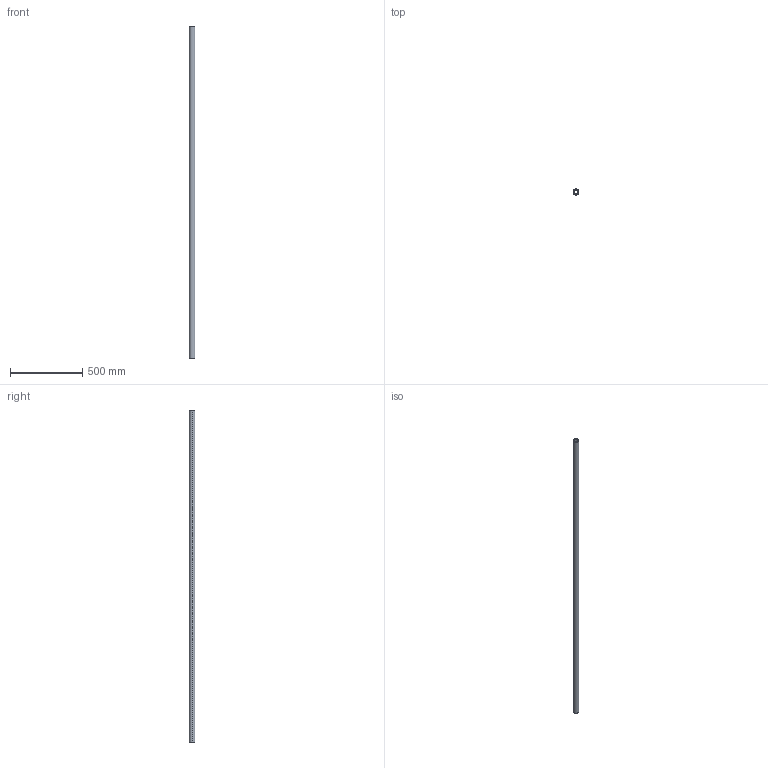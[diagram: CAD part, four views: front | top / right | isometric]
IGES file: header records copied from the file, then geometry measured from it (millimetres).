
Start section: SolidWorks IGES file using analytic representation for surfaces
Global section: file name: C:\Users\IanO\Desktop\L1771_v2\L1771.40_v2\L1771.40_v2_20230705_IGES\L1771.40-2300.igs; native system: SolidWorks 2019; preprocessor: SolidWorks 2019; author: IanO; date: 230705.161147; units: millimetre
Bounding box: 40 x 40 x 2300 mm (x, y, z)
Surface area: 492626.9 mm2 (no closed solid volume)
Topology: 0 solids, 0 shells, 6 faces, 272 edges, 272 vertices
Faces by surface type: revolution 4, bspline 2
